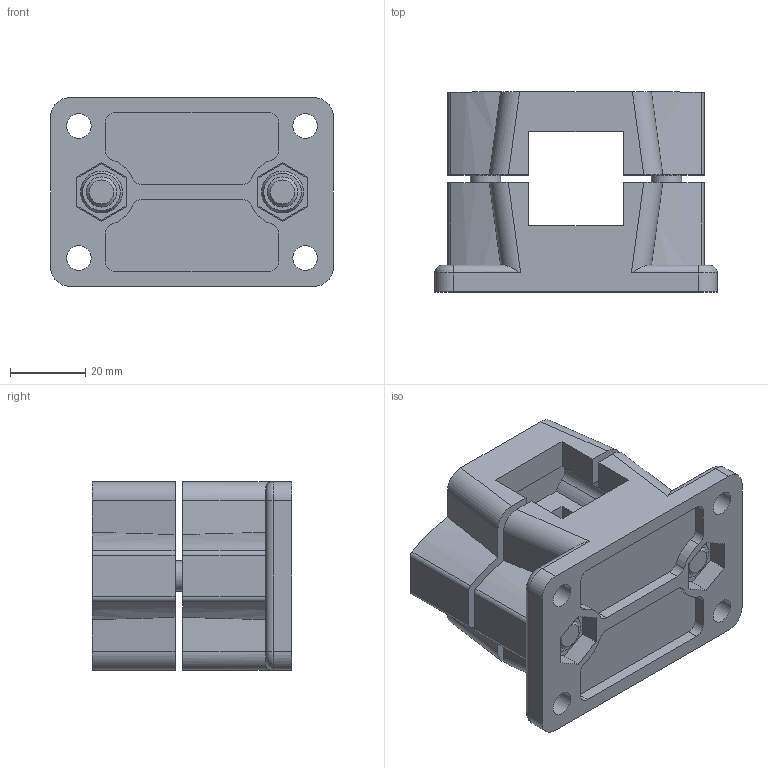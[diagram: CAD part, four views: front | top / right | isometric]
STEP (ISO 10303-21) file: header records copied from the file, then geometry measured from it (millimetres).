
FILE_DESCRIPTION( ( 'STEP AP203' ), '1' );
FILE_NAME( 'C:/Temp/Ganter_Step_05_03_2020/data/3_7/147/Flanged connector clamp GN 147-V25-2-BL.stp', '2020-03-12T14:20:27', ( 'License CC BY-ND 4.0' ), ( 'CADENAS' ), ' ', 'PARTsolutions', ' ' );
FILE_SCHEMA( ( 'CONFIG_CONTROL_DESIGN' ) );
Length unit declared in the file: millimetre
Products named in the file (1): _Flanged connector clamp GN 147-V25-2-BL
Bounding box: 75 x 53 x 50 mm (x, y, z)
Volume: 80222.9 mm3; surface area: 35217.2 mm2
Topology: 1 solids, 1 shells, 230 faces, 616 edges, 410 vertices
Faces by surface type: plane 134, cylinder 86, torus 6, cone 4
Full cylindrical faces by diameter (mm): 6.5 x4, 8 x4, 8.5 x4, 13 x2
Entity records: 7138 total; most frequent: CARTESIAN_POINT 1277, DIRECTION 1232, ORIENTED_EDGE 1172, EDGE_CURVE 586, AXIS2_PLACEMENT_3D 419, VERTEX_POINT 400, LINE 394, VECTOR 394
